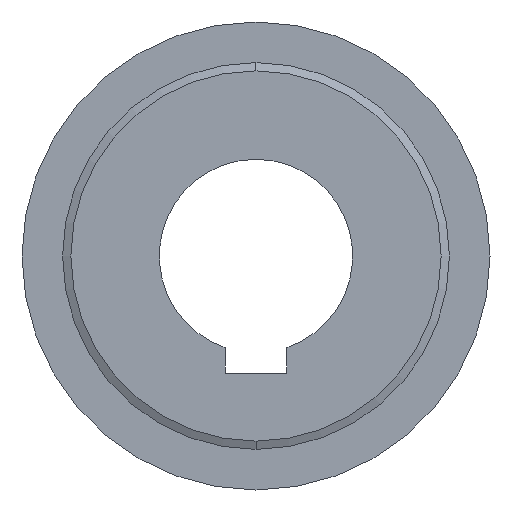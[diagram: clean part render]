
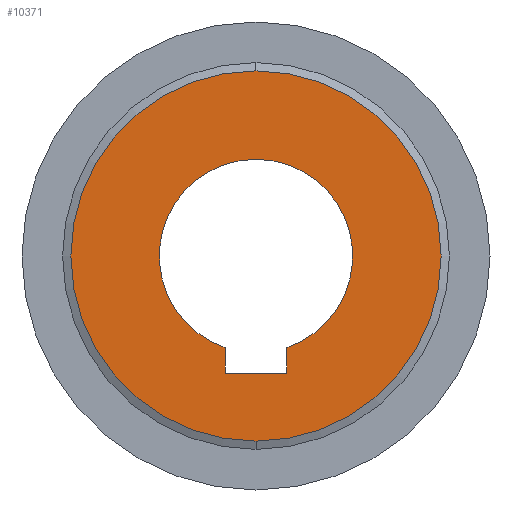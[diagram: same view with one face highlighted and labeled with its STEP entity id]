
A CAD part, left-side view. The second image highlights one B-rep face of the part: STEP entity #10371.
In plain terms, the highlighted planar face has unit normal (-1, 0, 0).
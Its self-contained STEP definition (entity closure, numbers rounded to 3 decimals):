
#342 = EDGE_CURVE ( 'NONE', #1479, #4090, #14002, .T. ) ;
#471 = DIRECTION ( 'NONE',  ( 0., 0., -1. ) ) ;
#582 = VERTEX_POINT ( 'NONE', #812 ) ;
#637 = VERTEX_POINT ( 'NONE', #12346 ) ;
#812 = CARTESIAN_POINT ( 'NONE',  ( -30.75, 4., -15.143 ) ) ;
#959 = CIRCLE ( 'NONE', #10520, 23.928 ) ;
#1303 = EDGE_CURVE ( 'NONE', #4090, #637, #14337, .T. ) ;
#1479 = VERTEX_POINT ( 'NONE', #3022 ) ;
#1646 = DIRECTION ( 'NONE',  ( -1., 0., 0. ) ) ;
#2068 = AXIS2_PLACEMENT_3D ( 'NONE', #11546, #2237, #10176 ) ;
#2237 = DIRECTION ( 'NONE',  ( -1., 0., 0. ) ) ;
#2967 = EDGE_CURVE ( 'NONE', #13355, #15566, #15001, .T. ) ;
#3022 = CARTESIAN_POINT ( 'NONE',  ( -30.75, -4., -11.843 ) ) ;
#3290 = AXIS2_PLACEMENT_3D ( 'NONE', #6390, #7591, #16619 ) ;
#3562 = DIRECTION ( 'NONE',  ( 0., 0., 1. ) ) ;
#4085 = CARTESIAN_POINT ( 'NONE',  ( -30.75, -4., -15.143 ) ) ;
#4090 = VERTEX_POINT ( 'NONE', #15894 ) ;
#4294 = DIRECTION ( 'NONE',  ( 0., 0., 1. ) ) ;
#4597 = DIRECTION ( 'NONE',  ( 0., -1., 0. ) ) ;
#4689 = EDGE_CURVE ( 'NONE', #15566, #13355, #959, .T. ) ;
#5838 = CARTESIAN_POINT ( 'NONE',  ( -30.75, 0., -23.928 ) ) ;
#5883 = VECTOR ( 'NONE', #471, 1000. ) ;
#6102 = CARTESIAN_POINT ( 'NONE',  ( -30.75, 0., 0. ) ) ;
#6390 = CARTESIAN_POINT ( 'NONE',  ( -30.75, 0., 0. ) ) ;
#6731 = LINE ( 'NONE', #6817, #5883 ) ;
#6817 = CARTESIAN_POINT ( 'NONE',  ( -30.75, 4., -15.143 ) ) ;
#6943 = VECTOR ( 'NONE', #4597, 1000. ) ;
#7591 = DIRECTION ( 'NONE',  ( -1., 0., 0. ) ) ;
#7819 = CARTESIAN_POINT ( 'NONE',  ( -30.75, 0., 23.928 ) ) ;
#8007 = DIRECTION ( 'NONE',  ( 0., 0., 1. ) ) ;
#8090 = EDGE_CURVE ( 'NONE', #637, #582, #6731, .T. ) ;
#8214 = CARTESIAN_POINT ( 'NONE',  ( -30.75, 0., 0. ) ) ;
#8491 = ORIENTED_EDGE ( 'NONE', *, *, #1303, .F. ) ;
#8896 = VERTEX_POINT ( 'NONE', #11108 ) ;
#9098 = ORIENTED_EDGE ( 'NONE', *, *, #13012, .F. ) ;
#9180 = AXIS2_PLACEMENT_3D ( 'NONE', #6102, #15299, #16416 ) ;
#9338 = EDGE_LOOP ( 'NONE', ( #9098, #16841, #10855, #8491, #13532 ) ) ;
#10176 = DIRECTION ( 'NONE',  ( 0., 0., 1. ) ) ;
#10371 = ADVANCED_FACE ( 'NONE', ( #13930, #11468 ), #13769, .T. ) ;
#10520 = AXIS2_PLACEMENT_3D ( 'NONE', #8214, #1646, #4294 ) ;
#10771 = ORIENTED_EDGE ( 'NONE', *, *, #2967, .T. ) ;
#10855 = ORIENTED_EDGE ( 'NONE', *, *, #8090, .F. ) ;
#11091 = CARTESIAN_POINT ( 'NONE',  ( -30.75, -4., -15.143 ) ) ;
#11108 = CARTESIAN_POINT ( 'NONE',  ( -30.75, -4., -15.143 ) ) ;
#11468 = FACE_BOUND ( 'NONE', #9338, .T. ) ;
#11546 = CARTESIAN_POINT ( 'NONE',  ( -30.75, 0., 0. ) ) ;
#11687 = LINE ( 'NONE', #4085, #16153 ) ;
#12346 = CARTESIAN_POINT ( 'NONE',  ( -30.75, 4., -11.843 ) ) ;
#13012 = EDGE_CURVE ( 'NONE', #8896, #1479, #11687, .T. ) ;
#13355 = VERTEX_POINT ( 'NONE', #7819 ) ;
#13532 = ORIENTED_EDGE ( 'NONE', *, *, #342, .F. ) ;
#13538 = EDGE_LOOP ( 'NONE', ( #14829, #10771 ) ) ;
#13769 = PLANE ( 'NONE',  #2068 ) ;
#13930 = FACE_OUTER_BOUND ( 'NONE', #13538, .T. ) ;
#13973 = DIRECTION ( 'NONE',  ( -1., 0., 0. ) ) ;
#14002 = CIRCLE ( 'NONE', #14557, 12.5 ) ;
#14337 = CIRCLE ( 'NONE', #9180, 12.5 ) ;
#14557 = AXIS2_PLACEMENT_3D ( 'NONE', #15168, #13973, #3562 ) ;
#14829 = ORIENTED_EDGE ( 'NONE', *, *, #4689, .T. ) ;
#14993 = LINE ( 'NONE', #11091, #6943 ) ;
#15001 = CIRCLE ( 'NONE', #3290, 23.928 ) ;
#15168 = CARTESIAN_POINT ( 'NONE',  ( -30.75, 0., 0. ) ) ;
#15299 = DIRECTION ( 'NONE',  ( -1., 0., 0. ) ) ;
#15566 = VERTEX_POINT ( 'NONE', #5838 ) ;
#15894 = CARTESIAN_POINT ( 'NONE',  ( -30.75, 0., 12.5 ) ) ;
#16153 = VECTOR ( 'NONE', #8007, 1000. ) ;
#16416 = DIRECTION ( 'NONE',  ( 0., 0., 1. ) ) ;
#16619 = DIRECTION ( 'NONE',  ( 0., 0., 1. ) ) ;
#16756 = EDGE_CURVE ( 'NONE', #582, #8896, #14993, .T. ) ;
#16841 = ORIENTED_EDGE ( 'NONE', *, *, #16756, .F. ) ;
